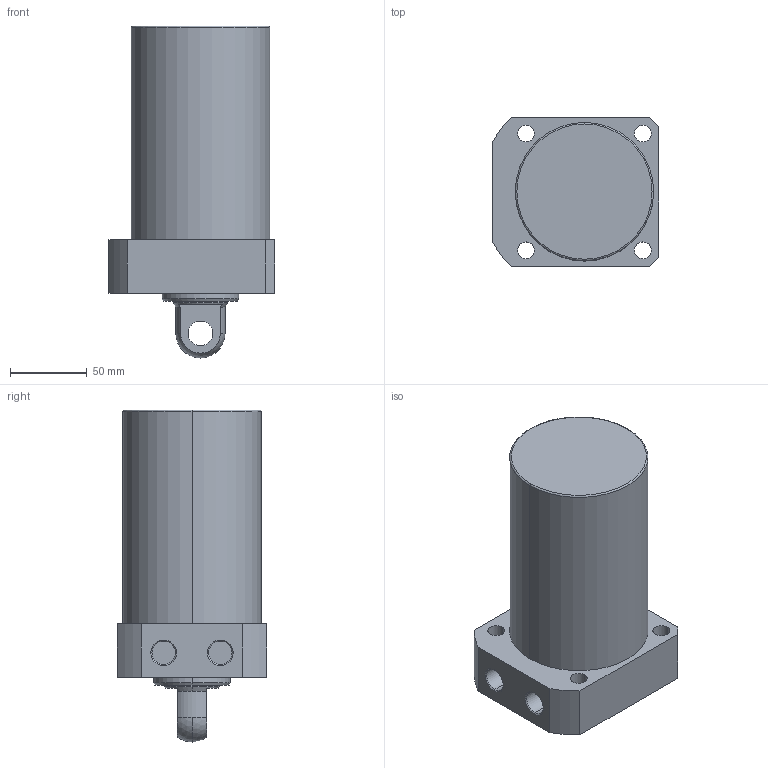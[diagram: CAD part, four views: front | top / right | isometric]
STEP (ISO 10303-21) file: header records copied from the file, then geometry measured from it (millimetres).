
FILE_DESCRIPTION (( 'STEP AP203' ), '1' );
FILE_NAME ('CLLR-090CP-095.STEP', '2019-12-18T06:52:48', ( '' ), ( '' ), 'SwSTEP 2.0', 'SolidWorks 2015', '' );
FILE_SCHEMA (( 'CONFIG_CONTROL_DESIGN' ));
Length unit declared in the file: millimetre
Products named in the file (1): CLLR-090CP-095
Bounding box: 108 x 97 x 216 mm (x, y, z)
Volume: 1248450.2 mm3; surface area: 83367.1 mm2
Topology: 1 solids, 1 shells, 59 faces, 139 edges, 89 vertices
Faces by surface type: cylinder 29, plane 18, cone 8, sphere 2, torus 2
Entity records: 1822 total; most frequent: DIRECTION 331, CARTESIAN_POINT 300, ORIENTED_EDGE 278, EDGE_CURVE 139, AXIS2_PLACEMENT_3D 136, VERTEX_POINT 89, EDGE_LOOP 76, CIRCLE 76
